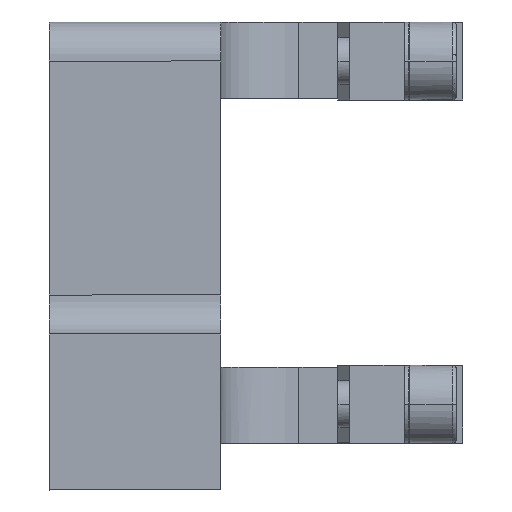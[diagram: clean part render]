
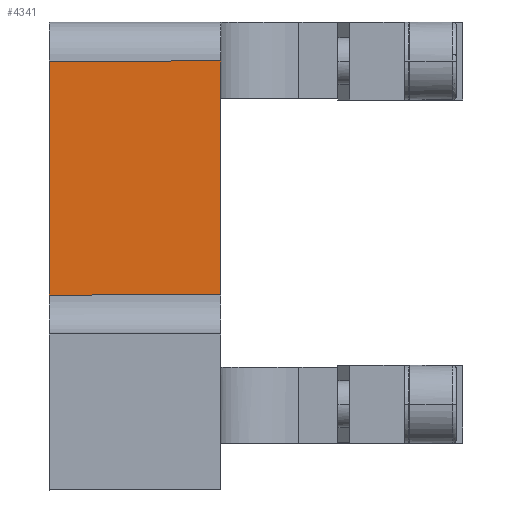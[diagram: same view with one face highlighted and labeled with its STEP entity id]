
A CAD part, left-side view. The second image highlights one B-rep face of the part: STEP entity #4341.
In plain terms, the highlighted planar face has unit normal (-1, 0, 0).
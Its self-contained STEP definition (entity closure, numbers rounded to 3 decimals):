
#4250=CARTESIAN_POINT('Vertex',(-81.,37.,22.)) ;
#4253=CARTESIAN_POINT('Line Origine',(-81.,18.5,22.)) ;
#4257=CARTESIAN_POINT('Vertex',(-81.,15.,22.)) ;
#4303=CARTESIAN_POINT('Axis2P3D Location',(-81.,0.,-10.)) ;
#4308=CARTESIAN_POINT('Line Origine',(-81.,15.,-7.381)) ;
#4312=CARTESIAN_POINT('Vertex',(-81.,15.,-8.)) ;
#4314=CARTESIAN_POINT('Vertex',(-81.,15.,-6.763)) ;
#4317=CARTESIAN_POINT('Line Origine',(-81.,15.,7.619)) ;
#4322=CARTESIAN_POINT('Line Origine',(-81.,37.,7.)) ;
#4326=CARTESIAN_POINT('Vertex',(-81.,37.,-8.)) ;
#4329=CARTESIAN_POINT('Line Origine',(-81.,26.,-8.)) ;
#4254=DIRECTION('Vector Direction',(0.,1.,0.)) ;
#4304=DIRECTION('Axis2P3D Direction',(-1.,0.,0.)) ;
#4305=DIRECTION('Axis2P3D XDirection',(0.,0.,1.)) ;
#4309=DIRECTION('Vector Direction',(0.,0.,1.)) ;
#4318=DIRECTION('Vector Direction',(0.,0.,-1.)) ;
#4323=DIRECTION('Vector Direction',(0.,0.,1.)) ;
#4330=DIRECTION('Vector Direction',(0.,1.,0.)) ;
#4306=AXIS2_PLACEMENT_3D('Plane Axis2P3D',#4303,#4304,#4305) ;
#4335=ORIENTED_EDGE('',*,*,#4316,.T.) ;
#4336=ORIENTED_EDGE('',*,*,#4321,.F.) ;
#4337=ORIENTED_EDGE('',*,*,#4259,.T.) ;
#4338=ORIENTED_EDGE('',*,*,#4328,.F.) ;
#4339=ORIENTED_EDGE('',*,*,#4333,.F.) ;
#4255=VECTOR('Line Direction',#4254,1.) ;
#4310=VECTOR('Line Direction',#4309,1.) ;
#4319=VECTOR('Line Direction',#4318,1.) ;
#4324=VECTOR('Line Direction',#4323,1.) ;
#4331=VECTOR('Line Direction',#4330,1.) ;
#4341=ADVANCED_FACE('Brep With Voids',(#4340),#4307,.T.) ;
#4259=EDGE_CURVE('',#4258,#4251,#4256,.T.) ;
#4316=EDGE_CURVE('',#4313,#4315,#4311,.T.) ;
#4321=EDGE_CURVE('',#4258,#4315,#4320,.T.) ;
#4328=EDGE_CURVE('',#4327,#4251,#4325,.T.) ;
#4333=EDGE_CURVE('',#4313,#4327,#4332,.T.) ;
#4334=EDGE_LOOP('',(#4335,#4336,#4337,#4338,#4339)) ;
#4340=FACE_OUTER_BOUND('',#4334,.T.) ;
#4256=LINE('Line',#4253,#4255) ;
#4311=LINE('Line',#4308,#4310) ;
#4320=LINE('Line',#4317,#4319) ;
#4325=LINE('Line',#4322,#4324) ;
#4332=LINE('Line',#4329,#4331) ;
#4307=PLANE('Plane',#4306) ;
#4251=VERTEX_POINT('',#4250) ;
#4258=VERTEX_POINT('',#4257) ;
#4313=VERTEX_POINT('',#4312) ;
#4315=VERTEX_POINT('',#4314) ;
#4327=VERTEX_POINT('',#4326) ;
